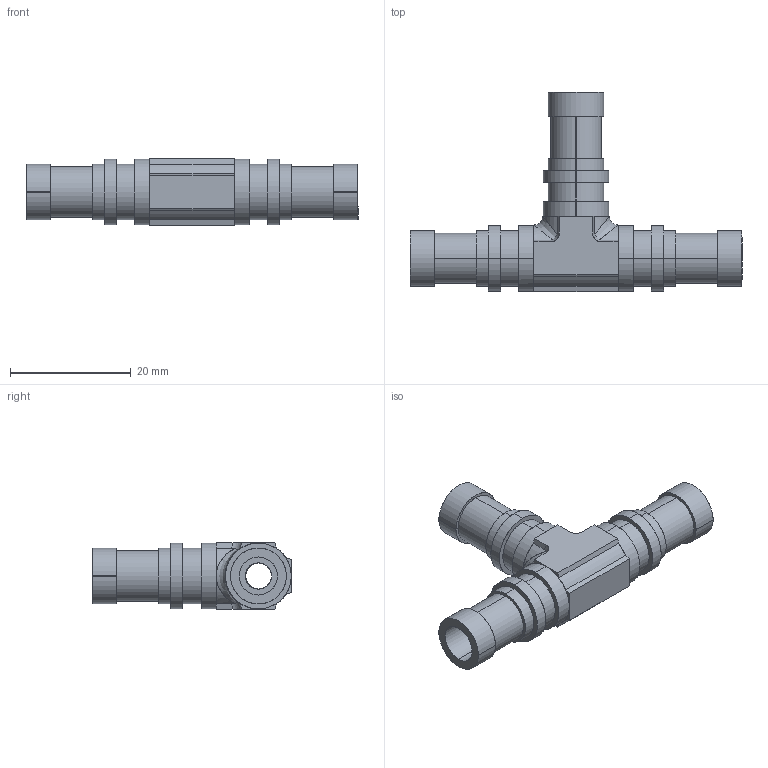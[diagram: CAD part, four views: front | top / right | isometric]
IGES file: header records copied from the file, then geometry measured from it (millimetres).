
Start section: SolidWorks IGES file using analytic representation for surfaces
Global section: file name: 70-6.3UT-P^70-6.3UT-P.IGS; native system: SolidWorks 2012; preprocessor: SolidWorks 2012; author: harada; date: 140226.174514; units: millimetre
Bounding box: 55 x 33 x 11 mm (x, y, z)
Surface area: 4012.2 mm2 (no closed solid volume)
Topology: 0 solids, 0 shells, 102 faces, 2006 edges, 2006 vertices
Faces by surface type: revolution 61, bspline 41
